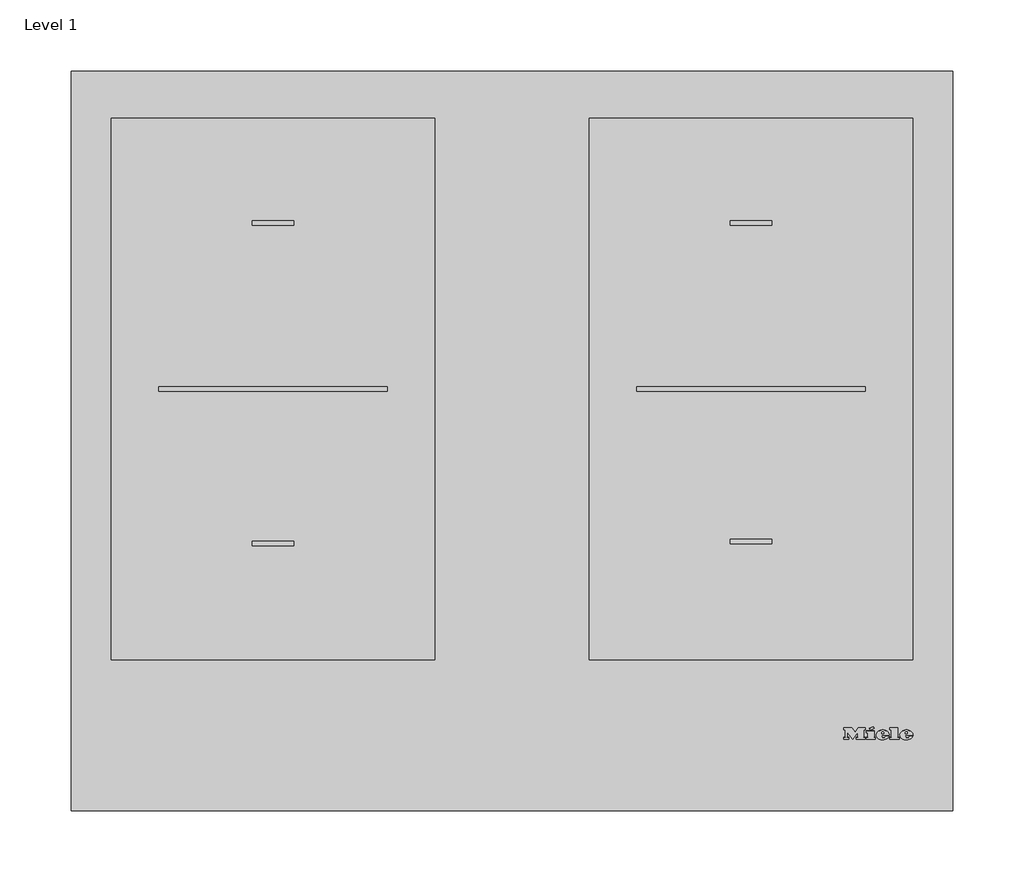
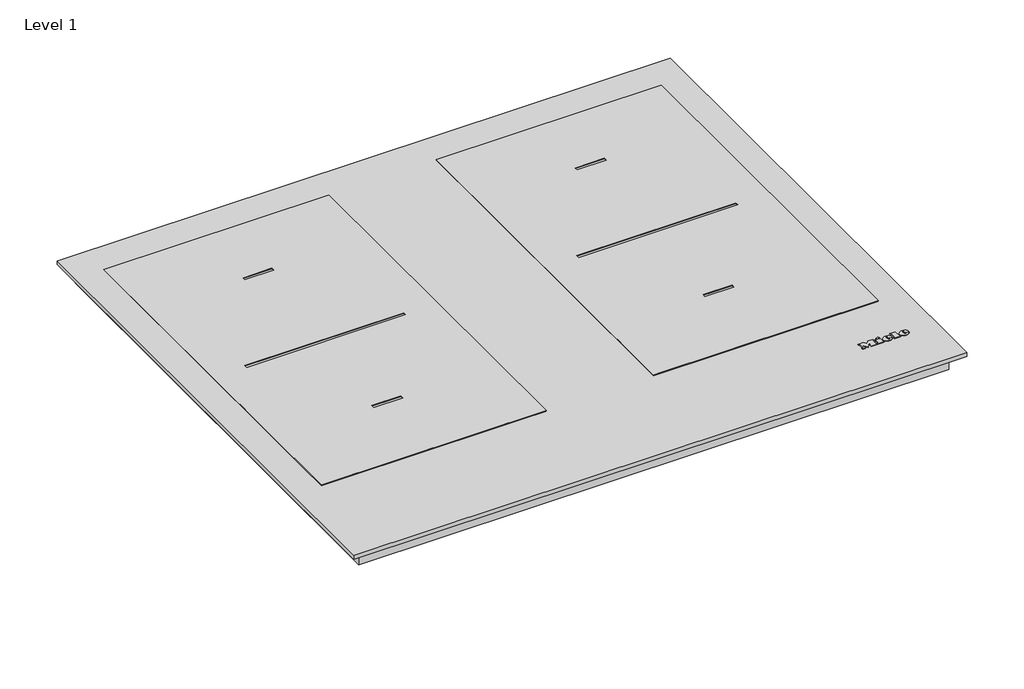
# One storey: 1 proxy.
"""IFC4 building model written with IfcOpenShell, lengths in millimetres."""

import ifcopenshell
import ifcopenshell.guid

model = None  # the IFC model being written
_history = None  # IfcOwnerHistory: only IFC2X3 demands one
_inside = {}  # id of a spatial element -> (the spatial element, [elements in it])
_under = {}  # id of a project, library or spatial element -> (it, [spatial elements below it])
_declared = {}  # id of a project -> (the project, [libraries it declares])
_typed = {}  # id of a type object -> (the type object, [elements of that type])
_made_of = {}  # id of a material, layer set ... -> (it, [elements and type objects made of it])


def new_model(schema):
    """Start an empty IFC model of exactly this schema.

    Asked for "IFC4X3", IfcOpenShell would pick the latest addendum, in which some entities
    have other attributes; the version numbers below select the first issue.
    IFC2X3 requires an IfcOwnerHistory on every rooted entity: one is made here for all.
    """
    global model, _history
    if schema == "IFC4X3":
        model = ifcopenshell.file(schema_version=(4, 3, 0, 0))
    else:
        model = ifcopenshell.file(schema=schema)
    _inside.clear()
    _under.clear()
    _declared.clear()
    _typed.clear()
    _made_of.clear()
    _history = None
    if model.schema == "IFC2X3":
        org = make("IfcOrganization", Name="unknown")
        user = make(
            "IfcPersonAndOrganization",
            ThePerson=make("IfcPerson", FamilyName="unknown"),
            TheOrganization=org,
        )
        app = make(
            "IfcApplication",
            ApplicationDeveloper=org,
            Version="unknown",
            ApplicationFullName="unknown",
            ApplicationIdentifier="unknown",
        )
        _history = make(
            "IfcOwnerHistory",
            OwningUser=user,
            OwningApplication=app,
            ChangeAction="ADDED",
            CreationDate=0,
        )
    return model


def make(cls, **values):
    """One entity of the class cls with the attributes given. An attribute that is None is left unset."""
    return model.create_entity(
        cls, **{name: value for name, value in values.items() if value is not None}
    )


def rooted(cls, **values):
    """An entity with a GlobalId (a new one), such as an element, a storey or a relation."""
    return make(cls, GlobalId=ifcopenshell.guid.new(), OwnerHistory=_history, **values)


def si_unit(unit_type, name, prefix=None):
    """IfcSIUnit, for example si_unit("LENGTHUNIT", "METRE", prefix="MILLI")."""
    return make("IfcSIUnit", UnitType=unit_type, Prefix=prefix, Name=name)


def assignment(units):
    """IfcUnitAssignment: the units of a project."""
    return None if units is None else make("IfcUnitAssignment", Units=units)


def point(xyz):
    """IfcCartesianPoint."""
    return None if xyz is None else make("IfcCartesianPoint", Coordinates=xyz)


def direction(xyz):
    """IfcDirection."""
    return None if xyz is None else make("IfcDirection", DirectionRatios=xyz)


def frame(location, z_axis=None, x_axis=None):
    """IfcAxis2Placement3D, a coordinate frame: its origin and axes. An axis left out is left unset."""
    return make(
        "IfcAxis2Placement3D",
        Location=point(location),
        Axis=direction(z_axis),
        RefDirection=direction(x_axis),
    )


def frame_2d(location, x_axis=None):
    """IfcAxis2Placement2D, a coordinate frame in the plane: its origin and x axis."""
    return make(
        "IfcAxis2Placement2D", Location=point(location), RefDirection=direction(x_axis)
    )


def origin():
    """The frame at (0, 0, 0) with its axes left unset."""
    return frame((0.0, 0.0, 0.0))


def origin_with_axes():
    """The frame at (0, 0, 0) with the z axis (0, 0, 1) and the x axis (1, 0, 0) written out."""
    return frame((0.0, 0.0, 0.0), z_axis=(0.0, 0.0, 1.0), x_axis=(1.0, 0.0, 0.0))


def place(relative_to, where):
    """IfcLocalPlacement: puts the frame where relative to a parent placement (None: the world)."""
    return make(
        "IfcLocalPlacement", PlacementRelTo=relative_to, RelativePlacement=where
    )


def context(
    kind, dimensions, precision=None, world=None, true_north=None, identifier=None
):
    """IfcGeometricRepresentationContext, for example the 3D "Model" context."""
    return make(
        "IfcGeometricRepresentationContext",
        ContextIdentifier=identifier,
        ContextType=kind,
        CoordinateSpaceDimension=dimensions,
        Precision=precision,
        WorldCoordinateSystem=world,
        TrueNorth=true_north,
    )


def project(units=None, contexts=None):
    """IfcProject with its units and contexts."""
    return rooted(
        "IfcProject",
        Name="project",
        RepresentationContexts=contexts,
        UnitsInContext=assignment(units),
    )


def spatial(cls, under=None, at=None, **own):
    """A site, building, storey or space (cls), placed at a placement, below another one or the project."""
    s = rooted(cls, ObjectPlacement=at, **own)
    if under is not None:
        _under.setdefault(under.id(), (under, []))[1].append(s)
    return s


def polyline(points):
    """IfcPolyline through the points."""
    return make("IfcPolyline", Points=[point(p) for p in points])


def circle_curve(where, radius):
    """IfcCircle in the frame where."""
    return make("IfcCircle", Position=where, Radius=radius)


def ellipse_curve(where, semi_axis1, semi_axis2):
    """IfcEllipse in the frame where."""
    return make(
        "IfcEllipse", Position=where, SemiAxis1=semi_axis1, SemiAxis2=semi_axis2
    )


def trimmed(basis, trim1, trim2, sense, master):
    """IfcTrimmedCurve: the piece of a basis curve between two trims."""
    return make(
        "IfcTrimmedCurve",
        BasisCurve=basis,
        Trim1=trim1,
        Trim2=trim2,
        SenseAgreement=sense,
        MasterRepresentation=master,
    )


def segment(curve, same_sense, transition):
    """IfcCompositeCurveSegment."""
    return make(
        "IfcCompositeCurveSegment",
        Transition=transition,
        SameSense=same_sense,
        ParentCurve=curve,
    )


def composite_curve(segments, self_intersect=None):
    """IfcCompositeCurve: segments joined end to end."""
    return make("IfcCompositeCurve", Segments=segments, SelfIntersect=self_intersect)


def outline(outer, holes=None, kind="AREA"):
    """IfcArbitraryClosedProfileDef: a profile drawn as a closed curve; with holes, ...WithVoids."""
    if holes is None:
        return make("IfcArbitraryClosedProfileDef", ProfileType=kind, OuterCurve=outer)
    return make(
        "IfcArbitraryProfileDefWithVoids",
        ProfileType=kind,
        OuterCurve=outer,
        InnerCurves=holes,
    )


def extrude(swept, where, along, depth):
    """IfcExtrudedAreaSolid: the profile swept, set in the frame where, extruded along a direction by depth."""
    return make(
        "IfcExtrudedAreaSolid",
        SweptArea=swept,
        Position=where,
        ExtrudedDirection=direction(along),
        Depth=depth,
    )


def shape(context_of_items, identifier, shape_type, items):
    """IfcShapeRepresentation: the items that make up one representation, for example the "Body"."""
    return make(
        "IfcShapeRepresentation",
        ContextOfItems=context_of_items,
        RepresentationIdentifier=identifier,
        RepresentationType=shape_type,
        Items=items,
    )


def source(mapping_origin, context_of_items, identifier, shape_type, items):
    """IfcRepresentationMap: a shape defined once, which mapped items show again and again."""
    return make(
        "IfcRepresentationMap",
        MappingOrigin=mapping_origin,
        MappedRepresentation=shape(context_of_items, identifier, shape_type, items),
    )


def transform(
    local_origin,
    x_axis=None,
    y_axis=None,
    z_axis=None,
    scale=None,
    scale2=None,
    scale3=None,
    uniform=True,
):
    """IfcCartesianTransformationOperator3D, or its non-uniform kind. x_axis, y_axis, z_axis: its Axis1, 2, 3."""
    if uniform:
        return make(
            "IfcCartesianTransformationOperator3D",
            Axis1=direction(x_axis),
            Axis2=direction(y_axis),
            LocalOrigin=point(local_origin),
            Scale=scale,
            Axis3=direction(z_axis),
        )
    return make(
        "IfcCartesianTransformationOperator3DnonUniform",
        Axis1=direction(x_axis),
        Axis2=direction(y_axis),
        LocalOrigin=point(local_origin),
        Scale=scale,
        Axis3=direction(z_axis),
        Scale2=scale2,
        Scale3=scale3,
    )


def mapped(mapping_source, mapping_target):
    """IfcMappedItem: shows the shape of a source again, moved by a transform."""
    return make(
        "IfcMappedItem", MappingSource=mapping_source, MappingTarget=mapping_target
    )


def made_of(thing, what):
    """Note that an element or type object is made of a material, layer set ...; save() writes the relation."""
    if what is not None:
        _made_of.setdefault(what.id(), (what, []))[1].append(thing)
    return thing


def element(
    cls,
    number,
    at=None,
    inside=None,
    cuts=None,
    type_object=None,
    material=None,
    context=None,
    identifier="Body",
    shape_type=None,
    held_by="IfcProductDefinitionShape",
    body=None,
    shapes=None,
    **own,
):
    """One element of the class cls, such as IfcWall. Its Tag is "e" and its number.

    at: its placement. inside: the storey or other place that contains it. cuts: it is an
    opening in that element (IfcRelVoidsElement). A single representation is given by context,
    identifier, shape_type and body (its items); several are given by shapes. held_by: the class
    of the entity that holds the representations. save() writes the other relations.
    """
    e = rooted(cls, Tag="e%d" % number, ObjectPlacement=at, **own)
    if body is not None:
        shapes = [shape(context, identifier, shape_type, body)]
    if shapes is not None:
        e.Representation = make(held_by, Representations=shapes)
    if inside is not None:
        _inside.setdefault(inside.id(), (inside, []))[1].append(e)
    if cuts is not None:
        rooted(
            "IfcRelVoidsElement", RelatingBuildingElement=cuts, RelatedOpeningElement=e
        )
    if type_object is not None:
        _typed.setdefault(type_object.id(), (type_object, []))[1].append(e)
    return made_of(e, material)


def aggregate(whole, parts):
    """IfcRelAggregates: a whole, such as a stair, and the parts it consists of."""
    return rooted("IfcRelAggregates", RelatingObject=whole, RelatedObjects=parts)


def save(model, path):
    """Write the relations noted so far, then the file.

    IfcRelAggregates (storeys below a building ...), IfcRelContainedInSpatialStructure (elements
    in a storey), IfcRelDefinesByType, IfcRelAssociatesMaterial and IfcRelDeclares: one each for
    every whole, place, type object, material and project.
    """
    for whole, parts in _under.values():
        aggregate(whole, parts)
    for where, things in _inside.values():
        rooted(
            "IfcRelContainedInSpatialStructure",
            RelatedElements=things,
            RelatingStructure=where,
        )
    for kind, things in _typed.values():
        rooted("IfcRelDefinesByType", RelatedObjects=things, RelatingType=kind)
    for what, things in _made_of.values():
        rooted("IfcRelAssociatesMaterial", RelatedObjects=things, RelatingMaterial=what)
    for by, libraries in _declared.values():
        rooted("IfcRelDeclares", RelatingContext=by, RelatedDefinitions=libraries)
    model.write(path)


def plane_surface(at):
    """IfcPlane: the flat surface through the origin of the frame at, square to its z axis."""
    return make("IfcPlane", Position=at)


def cylinder_surface(at, radius):
    """IfcCylindricalSurface: all points at the distance radius from the z axis of the frame at."""
    return make("IfcCylindricalSurface", Position=at, Radius=radius)


def revolved_surface(curve, axis_point, axis_direction):
    """IfcSurfaceOfRevolution: the curve turned about the line through axis_point along axis_direction."""
    return make(
        "IfcSurfaceOfRevolution",
        SweptCurve=make("IfcArbitraryOpenProfileDef", ProfileType="CURVE", Curve=curve),
        AxisPosition=make("IfcAxis1Placement", Location=point(axis_point), Axis=direction(axis_direction)),
    )


def extruded_surface(curve, direction_of_extrusion, depth):
    """IfcSurfaceOfLinearExtrusion: the curve pushed along a direction by depth."""
    return make(
        "IfcSurfaceOfLinearExtrusion",
        SweptCurve=make("IfcArbitraryOpenProfileDef", ProfileType="CURVE", Curve=curve),
        ExtrudedDirection=direction(direction_of_extrusion),
        Depth=depth,
    )


def advanced_brep(points, edges, surfaces, faces):
    """IfcAdvancedBrep: a solid bounded by faces that lie on surfaces and meet in shared edges.

    An edge is (start, end): straight between two places in points (the first is 0);
    or (start, end, curve); or (start, end, curve, False) where it runs against its curve.
    A face is (place in surfaces, loops), or (place, loops, False) where it looks against
    its surface's normal. A loop lists edges by number (the first is 1), with a minus sign
    where the edge is run from its end to its start. The first loop is the outer one.
    """
    corners = [point(p) for p in points]
    vertices = [make("IfcVertexPoint", VertexGeometry=c) for c in corners]
    made = []
    for start, end, *more in edges:
        made.append(
            make(
                "IfcEdgeCurve",
                EdgeStart=vertices[start],
                EdgeEnd=vertices[end],
                EdgeGeometry=more[0] if more else make("IfcPolyline", Points=[corners[start], corners[end]]),
                SameSense=more[1] if len(more) > 1 else True,
            )
        )
    hull = []
    for where, loops, *sense in faces:
        bounds = []
        for j, loop in enumerate(loops):
            ring = [make("IfcOrientedEdge", EdgeElement=made[abs(k) - 1], Orientation=k > 0) for k in loop]
            bounds.append(
                make(
                    "IfcFaceOuterBound" if j == 0 else "IfcFaceBound",
                    Bound=make("IfcEdgeLoop", EdgeList=ring),
                    Orientation=True,
                )
            )
        hull.append(make("IfcAdvancedFace", Bounds=bounds, FaceSurface=surfaces[where], SameSense=sense[0] if sense else True))
    return make("IfcAdvancedBrep", Outer=make("IfcClosedShell", CfsFaces=hull))


def specialty_equipment_fb43af33(model_context):
    return source(origin(), model_context, "Body", "SolidModel", [
        advanced_brep(
        [(276.66, 52.1948833, 4.4802537), (276.66, 53.0028828, 4.4811551), (282.012, 53.0028828, 4.4811551), (272.7, 53.0028828, 4.4811551), (274.9, 50.2988845, 4.4781386), (281.876, 52.1948833, 4.4802537), (279.46, 52.1948833, 4.4802537), (277.556, 51.2988838, 4.4792542), (276.66, 54.0268821, 4.4822974), (276.66, 54.8988816, 4.4832701), (278.028, 54.8988816, 4.4832701), (278.028, 54.0268821, 4.4822974), (276.66, 52.1959988, 3.4802543), (277.556, 51.2999994, 3.4792548), (279.46, 52.1959988, 3.4802543), (281.876, 52.1959988, 3.4802543), (274.9, 50.3, 3.4781393), (272.7, 53.0039983, 3.4811557), (282.012, 53.0039983, 3.4811557), (276.66, 53.0039983, 3.4811557), (276.66, 54.0279977, 3.482298), (278.028, 54.0279977, 3.482298), (278.028, 54.8999971, 3.4832707), (276.66, 54.8999971, 3.4832707)],
        [
            (0, 1),
            (1, 2),
            (2, 3, ellipse_curve(frame((277.356, 53.0028828, 4.4811551), z_axis=(0.0, -0.0011155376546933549, 0.9999993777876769), x_axis=(-1.0, 0.0, 0.0)), 4.656, 3.848)),
            (3, 4, circle_curve(frame((275.7960436, 53.2748826, 4.4814585), z_axis=(0.0, -0.0011155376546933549, 0.9999993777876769), x_axis=(0.0, -0.9999993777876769, -0.0011155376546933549)), 3.1079688)),
            (4, 5, circle_curve(frame((277.2627936, 55.3868813, 4.4838145), z_axis=(0.0, -0.0011155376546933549, 0.9999993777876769), x_axis=(0.0, -0.9999993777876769, -0.0011155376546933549)), 5.6098607)),
            (5, 6),
            (6, 7, circle_curve(frame((277.9470588, 52.9388828, 4.4810837), z_axis=(0.0, 0.0011155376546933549, -0.9999993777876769), x_axis=(0.0, -0.9999993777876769, -0.0011155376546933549)), 1.6859795)),
            (7, 0, circle_curve(frame((277.556, 52.1948833, 4.4802537), z_axis=(0.0, 0.0011155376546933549, -0.9999993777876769), x_axis=(0.0, -0.9999993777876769, -0.0011155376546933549)), 0.896)),
            (8, 9),
            (9, 10, circle_curve(frame((277.344, 54.8988816, 4.4832701), z_axis=(0.0, 0.0011155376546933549, -0.9999993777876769), x_axis=(0.0, -0.9999993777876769, -0.0011155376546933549)), 0.684)),
            (10, 11),
            (11, 8),
            (12, 13, circle_curve(frame((277.556, 52.1959988, 3.4802543), z_axis=(0.0, -0.0011155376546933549, 0.9999993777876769), x_axis=(0.0, -0.9999993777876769, -0.0011155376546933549)), 0.896)),
            (13, 14, circle_curve(frame((277.9470588, 52.9399984, 3.4810843), z_axis=(0.0, -0.0011155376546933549, 0.9999993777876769), x_axis=(0.0, -0.9999993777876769, -0.0011155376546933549)), 1.6859795)),
            (14, 15),
            (15, 16, circle_curve(frame((277.2627936, 55.3879968, 3.4838151), z_axis=(0.0, 0.0011155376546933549, -0.9999993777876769), x_axis=(0.0, -0.9999993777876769, -0.0011155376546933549)), 5.6098607)),
            (16, 17, circle_curve(frame((275.7960436, 53.2759981, 3.4814591), z_axis=(0.0, 0.0011155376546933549, -0.9999993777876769), x_axis=(0.0, -0.9999993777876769, -0.0011155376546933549)), 3.1079688)),
            (17, 18, ellipse_curve(frame((277.356, 53.0039983, 3.4811557), z_axis=(0.0, 0.0011155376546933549, -0.9999993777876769), x_axis=(-1.0, 0.0, 0.0)), 4.656, 3.848)),
            (18, 19),
            (19, 12),
            (20, 21),
            (21, 22),
            (22, 23, circle_curve(frame((277.344, 54.8999971, 3.4832707), z_axis=(0.0, -0.0011155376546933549, 0.9999993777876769), x_axis=(0.0, -0.9999993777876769, -0.0011155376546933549)), 0.684)),
            (23, 20),
            (0, 12),
            (19, 1),
            (18, 2),
            (5, 15),
            (14, 6),
            (17, 3),
            (13, 7),
            (16, 4),
            (8, 20),
            (23, 9),
            (22, 10),
            (21, 11),
        ],
        [
            plane_surface(frame((276.66, 53.0028828, 4.4811551), z_axis=(0.0, -0.0011155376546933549, 0.9999993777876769), x_axis=(0.0, 0.9999993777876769, 0.0011155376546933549))),
            plane_surface(frame((276.66, 53.0039983, 3.4811557), z_axis=(0.0, 0.0011155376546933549, -0.9999993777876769), x_axis=(0.0, -0.9999993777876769, -0.0011155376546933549))),
            plane_surface(frame((276.66, 52.1948833, 4.4802537), z_axis=(1.0000000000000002, 0.0, 0.0), x_axis=(0.0, 0.001115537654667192, -0.999999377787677))),
            plane_surface(frame((276.66, 53.0028828, 4.4811551), z_axis=(0.0, -0.999999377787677, -0.001115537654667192), x_axis=(0.0, 0.001115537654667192, -0.999999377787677))),
            plane_surface(frame((281.876, 52.1948833, 4.4802537), z_axis=(0.0, 0.999999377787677, 0.001115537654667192), x_axis=(0.0, 0.001115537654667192, -0.999999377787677))),
            extruded_surface(trimmed(ellipse_curve(frame((277.356, 53.0051139, 2.4811563), z_axis=(0.0, -0.0011155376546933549, 0.9999993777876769), x_axis=(-1.0, 0.0, 0.0)), 4.656, 3.848), [point((282.012, 53.0051139, 2.4811563))], [point((272.7, 53.0051139, 2.4811563))], True, "CARTESIAN"), (0.0, -0.001115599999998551, 0.9999994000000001), 1.00000002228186),
            revolved_surface(polyline([(277.9470588, 51.25401994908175, 3.479203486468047), (277.9470588, 51.25290441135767, 4.4792029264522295)]), (277.9470588, 52.9399984, 3.4810843), (0.0, 0.0011155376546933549, -0.9999993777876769)),
            revolved_surface(polyline([(277.556, 51.29999935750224, 3.4792547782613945), (277.556, 51.29888381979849, 4.479254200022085)]), (277.556, 52.1959988, 3.4802543), (0.0, 0.0011155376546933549, -0.9999993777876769)),
            cylinder_surface(frame((275.7960436, 53.2759981, 3.4814591), z_axis=(0.0, -0.0011155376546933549, 0.9999993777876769), x_axis=(0.0, -0.9999993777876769, -0.0011155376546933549)), 3.1079688),
            cylinder_surface(frame((277.2627936, 55.3879968, 3.4838151), z_axis=(0.0, -0.0011155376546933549, 0.9999993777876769), x_axis=(0.0, -0.9999993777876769, -0.0011155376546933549)), 5.6098607),
            plane_surface(frame((276.66, 54.0268821, 4.4822974), z_axis=(1.0000000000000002, 0.0, 0.0), x_axis=(0.0, 0.001115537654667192, -0.999999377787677))),
            revolved_surface(polyline([(277.344, 54.21599752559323, 3.4825076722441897), (277.344, 54.214881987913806, 4.482507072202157)]), (277.344, 54.8999971, 3.4832707), (0.0, 0.0011155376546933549, -0.9999993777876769)),
            plane_surface(frame((278.028, 54.8988816, 4.4832701), z_axis=(-1.0000000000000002, 0.0, 0.0), x_axis=(0.0, 0.001115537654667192, -0.999999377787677))),
            plane_surface(frame((278.028, 54.0268821, 4.4822974), z_axis=(0.0, 0.999999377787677, 0.001115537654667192), x_axis=(0.0, 0.001115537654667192, -0.999999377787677))),
        ],
        [
            (0, [[1, 2, 3, 4, 5, 6, 7, 8], [9, 10, 11, 12]]),
            (1, [[13, 14, 15, 16, 17, 18, 19, 20], [21, 22, 23, 24]]),
            (2, [[-1, 25, -20, 26]]),
            (3, [[-2, -26, -19, 27]]),
            (4, [[-6, 28, -15, 29]]),
            (5, [[-3, -27, -18, 30]]),
            (6, [[-7, -29, -14, 31]]),
            (7, [[-8, -31, -13, -25]]),
            (8, [[-4, -30, -17, 32]]),
            (9, [[-5, -32, -16, -28]]),
            (10, [[-9, 33, -24, 34]]),
            (11, [[-10, -34, -23, 35]]),
            (12, [[-11, -35, -22, 36]]),
            (13, [[-12, -36, -21, -33]]),
        ],
    ),
        advanced_brep(
        [(259.964, 52.1948833, 4.4802537), (259.964, 53.0028828, 4.4811551), (265.316, 53.0028828, 4.4811551), (256.004, 53.0028828, 4.4811551), (258.204, 50.2988845, 4.4781386), (265.18, 52.1948833, 4.4802537), (262.764, 52.1948833, 4.4802537), (260.86, 51.2988838, 4.4792542), (259.964, 54.0268821, 4.4822974), (259.964, 54.8988816, 4.4832701), (261.332, 54.8988816, 4.4832701), (261.332, 54.0268821, 4.4822974), (259.964, 52.1959988, 3.4802543), (260.86, 51.2999994, 3.4792548), (262.764, 52.1959988, 3.4802543), (265.18, 52.1959988, 3.4802543), (258.204, 50.3, 3.4781393), (256.004, 53.0039983, 3.4811557), (265.316, 53.0039983, 3.4811557), (259.964, 53.0039983, 3.4811557), (259.964, 54.0279977, 3.482298), (261.332, 54.0279977, 3.482298), (261.332, 54.8999971, 3.4832707), (259.964, 54.8999971, 3.4832707)],
        [
            (0, 1),
            (1, 2),
            (2, 3, ellipse_curve(frame((260.66, 53.0028828, 4.4811551), z_axis=(0.0, -0.0011155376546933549, 0.9999993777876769), x_axis=(-1.0, 0.0, 0.0)), 4.656, 3.848)),
            (3, 4, circle_curve(frame((259.1000436, 53.2748826, 4.4814585), z_axis=(0.0, -0.0011155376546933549, 0.9999993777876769), x_axis=(0.0, -0.9999993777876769, -0.0011155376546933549)), 3.1079688)),
            (4, 5, circle_curve(frame((260.5667936, 55.3868813, 4.4838145), z_axis=(0.0, -0.0011155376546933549, 0.9999993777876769), x_axis=(0.0, -0.9999993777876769, -0.0011155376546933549)), 5.6098607)),
            (5, 6),
            (6, 7, circle_curve(frame((261.2510588, 52.9388828, 4.4810837), z_axis=(0.0, 0.0011155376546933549, -0.9999993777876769), x_axis=(0.0, -0.9999993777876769, -0.0011155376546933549)), 1.6859795)),
            (7, 0, circle_curve(frame((260.86, 52.1948833, 4.4802537), z_axis=(0.0, 0.0011155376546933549, -0.9999993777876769), x_axis=(0.0, -0.9999993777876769, -0.0011155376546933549)), 0.896)),
            (8, 9),
            (9, 10, circle_curve(frame((260.648, 54.8988816, 4.4832701), z_axis=(0.0, 0.0011155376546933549, -0.9999993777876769), x_axis=(0.0, -0.9999993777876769, -0.0011155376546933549)), 0.684)),
            (10, 11),
            (11, 8),
            (12, 13, circle_curve(frame((260.86, 52.1959988, 3.4802543), z_axis=(0.0, -0.0011155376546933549, 0.9999993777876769), x_axis=(0.0, -0.9999993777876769, -0.0011155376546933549)), 0.896)),
            (13, 14, circle_curve(frame((261.2510588, 52.9399984, 3.4810843), z_axis=(0.0, -0.0011155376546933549, 0.9999993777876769), x_axis=(0.0, -0.9999993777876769, -0.0011155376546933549)), 1.6859795)),
            (14, 15),
            (15, 16, circle_curve(frame((260.5667936, 55.3879968, 3.4838151), z_axis=(0.0, 0.0011155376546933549, -0.9999993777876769), x_axis=(0.0, -0.9999993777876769, -0.0011155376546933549)), 5.6098607)),
            (16, 17, circle_curve(frame((259.1000436, 53.2759981, 3.4814591), z_axis=(0.0, 0.0011155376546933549, -0.9999993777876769), x_axis=(0.0, -0.9999993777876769, -0.0011155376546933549)), 3.1079688)),
            (17, 18, ellipse_curve(frame((260.66, 53.0039983, 3.4811557), z_axis=(0.0, 0.0011155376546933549, -0.9999993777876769), x_axis=(-1.0, 0.0, 0.0)), 4.656, 3.848)),
            (18, 19),
            (19, 12),
            (20, 21),
            (21, 22),
            (22, 23, circle_curve(frame((260.648, 54.8999971, 3.4832707), z_axis=(0.0, -0.0011155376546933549, 0.9999993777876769), x_axis=(0.0, -0.9999993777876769, -0.0011155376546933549)), 0.684)),
            (23, 20),
            (0, 12),
            (19, 1),
            (18, 2),
            (5, 15),
            (14, 6),
            (17, 3),
            (13, 7),
            (16, 4),
            (8, 20),
            (23, 9),
            (22, 10),
            (21, 11),
        ],
        [
            plane_surface(frame((259.964, 53.0028828, 4.4811551), z_axis=(0.0, -0.0011155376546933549, 0.9999993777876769), x_axis=(0.0, 0.9999993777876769, 0.0011155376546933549))),
            plane_surface(frame((259.964, 53.0039983, 3.4811557), z_axis=(0.0, 0.0011155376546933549, -0.9999993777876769), x_axis=(0.0, -0.9999993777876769, -0.0011155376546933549))),
            plane_surface(frame((259.964, 52.1948833, 4.4802537), z_axis=(1.0000000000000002, 0.0, 0.0), x_axis=(0.0, 0.001115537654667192, -0.999999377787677))),
            plane_surface(frame((259.964, 53.0028828, 4.4811551), z_axis=(0.0, -0.999999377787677, -0.001115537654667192), x_axis=(0.0, 0.001115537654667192, -0.999999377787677))),
            plane_surface(frame((265.18, 52.1948833, 4.4802537), z_axis=(0.0, 0.999999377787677, 0.001115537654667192), x_axis=(0.0, 0.001115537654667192, -0.999999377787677))),
            extruded_surface(trimmed(ellipse_curve(frame((260.66, 53.0051139, 2.4811563), z_axis=(0.0, -0.0011155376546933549, 0.9999993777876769), x_axis=(-1.0, 0.0, 0.0)), 4.656, 3.848), [point((265.316, 53.0051139, 2.4811563))], [point((256.004, 53.0051139, 2.4811563))], True, "CARTESIAN"), (0.0, -0.001115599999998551, 0.9999994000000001), 1.00000002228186),
            revolved_surface(polyline([(261.2510588, 51.25401994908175, 3.479203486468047), (261.2510588, 51.25290441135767, 4.4792029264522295)]), (261.2510588, 52.9399984, 3.4810843), (0.0, 0.0011155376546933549, -0.9999993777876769)),
            revolved_surface(polyline([(260.86, 51.29999935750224, 3.4792547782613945), (260.86, 51.29888381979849, 4.479254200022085)]), (260.86, 52.1959988, 3.4802543), (0.0, 0.0011155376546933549, -0.9999993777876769)),
            cylinder_surface(frame((259.1000436, 53.2759981, 3.4814591), z_axis=(0.0, -0.0011155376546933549, 0.9999993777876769), x_axis=(0.0, -0.9999993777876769, -0.0011155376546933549)), 3.1079688),
            cylinder_surface(frame((260.5667936, 55.3879968, 3.4838151), z_axis=(0.0, -0.0011155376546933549, 0.9999993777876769), x_axis=(0.0, -0.9999993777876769, -0.0011155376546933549)), 5.6098607),
            plane_surface(frame((259.964, 54.0268821, 4.4822974), z_axis=(1.0000000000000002, 0.0, 0.0), x_axis=(0.0, 0.001115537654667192, -0.999999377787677))),
            revolved_surface(polyline([(260.648, 54.21599752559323, 3.4825076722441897), (260.648, 54.214881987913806, 4.482507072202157)]), (260.648, 54.8999971, 3.4832707), (0.0, 0.0011155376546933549, -0.9999993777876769)),
            plane_surface(frame((261.332, 54.8988816, 4.4832701), z_axis=(-1.0000000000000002, 0.0, 0.0), x_axis=(0.0, 0.001115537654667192, -0.999999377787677))),
            plane_surface(frame((261.332, 54.0268821, 4.4822974), z_axis=(0.0, 0.999999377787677, 0.001115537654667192), x_axis=(0.0, 0.001115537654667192, -0.999999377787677))),
        ],
        [
            (0, [[1, 2, 3, 4, 5, 6, 7, 8], [9, 10, 11, 12]]),
            (1, [[13, 14, 15, 16, 17, 18, 19, 20], [21, 22, 23, 24]]),
            (2, [[-1, 25, -20, 26]]),
            (3, [[-2, -26, -19, 27]]),
            (4, [[-6, 28, -15, 29]]),
            (5, [[-3, -27, -18, 30]]),
            (6, [[-7, -29, -14, 31]]),
            (7, [[-8, -31, -13, -25]]),
            (8, [[-4, -30, -17, 32]]),
            (9, [[-5, -32, -16, -28]]),
            (10, [[-9, 33, -24, 34]]),
            (11, [[-10, -34, -23, 35]]),
            (12, [[-11, -35, -22, 36]]),
            (13, [[-12, -36, -21, -33]]),
        ],
    ),
        extrude(outline(polyline([(0.0, 0.0), (-0.0109086, -2.9993294), (-1.4390415, -2.9920868), (-1.4315307, 0.0), (0.0, 0.0)])), frame((251.22, 57.8279953, 3.486537), z_axis=(0.0, -0.001115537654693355, 0.9999993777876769), x_axis=(-0.4247202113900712, 0.9053240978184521, 0.0010099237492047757)), (0.0, 0.0, 1.0), 1.0),
        extrude(outline(polyline([(-0.4933908, 2.4141097), (-2.7800844, -2.4601583), (-7.0459741, -0.4588767), (-7.4401145, -1.299018), (-8.6568709, -0.728194), (-5.9760369, 4.9862153), (-4.7592805, 4.4153913), (-5.1636142, 3.5535222), (-2.1941493, 2.1604399), (-1.7898157, 3.022309), (-0.4933908, 2.4141097)])), frame((251.22, 57.8279953, 3.486537), z_axis=(0.0, -0.001115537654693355, 0.9999993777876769), x_axis=(-0.4247202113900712, 0.9053240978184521, 0.0010099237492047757)), (0.0, 0.0, 1.0), 1.0),
        extrude(outline(polyline([(0.0, 0.0), (0.0, -1.304), (-5.504, -1.304), (-5.504, 5.3519999), (-6.488, 5.3519999), (-6.488, 6.696), (0.0, 6.696), (0.0, 5.3519999), (-0.96, 5.3519999), (-0.96, 0.0), (0.0, 0.0)])), frame((265.764, 56.9959958, 3.4856089), z_axis=(0.0, -0.0011155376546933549, 0.9999993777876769), x_axis=(-1.0, 0.0, 0.0)), (0.0, 0.0, 1.0), 1.0),
        extrude(outline(polyline([(0.0, 0.0), (0.0, -1.304), (-5.576, -1.304), (-7.92, 1.696), (-10.256, -1.304), (-15.128, -1.304), (-15.128, 0.0), (-14.112, 0.0), (-14.112, 5.3519999), (-15.128, 5.3519999), (-15.128, 6.696), (-8.744, 6.696), (-8.744, 5.3519999), (-9.728, 5.3519999), (-9.728, 1.8807777), (-6.136, 6.696), (-2.56, 1.9488752), (-2.56, 5.3519999), (-3.52, 5.3519999), (-3.52, 6.696), (0.0, 6.696), (0.0, 5.3519999), (-0.968, 5.3519999), (-0.968, 0.0), (0.0, 0.0)])), frame((233.3, 56.9959958, 3.4856089), z_axis=(0.0, -0.0011155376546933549, 0.9999993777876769), x_axis=(-1.0, 0.0, 0.0)), (0.0, 0.0, 1.0), 1.0),
        extrude(outline(polyline([(310.0, 520.0), (310.0, 0.0), (-310.0, 0.0), (-310.0, 520.0), (310.0, 520.0)])), origin_with_axes(), (0.0, 0.0, 1.0), 4.0),
        extrude(outline(polyline([(298.5, 508.5), (298.5, 11.5), (-298.5, 11.5), (-298.5, 508.5), (298.5, 508.5)])), frame((0.0, 0.0, -16.8), z_axis=(0.0, 0.0, 1.0), x_axis=(1.0, 0.0, 0.0)), (0.0, 0.0, 1.0), 16.8),
        extrude(outline(polyline([(-202.8, 318.7), (-224.2, 318.7), (-224.2, 402.1), (-202.8, 402.1), (-202.8, 452.3), (203.2, 452.3), (203.2, 81.3), (-202.8, 81.3), (-202.8, 318.7)])), frame((0.0, 0.0, -46.5), z_axis=(0.0, 0.0, 1.0), x_axis=(1.0, 0.0, 0.0)), (0.0, 0.0, 1.0), 29.7),
        extrude(outline(polyline([(141.2772603, 415.5), (133.9, 415.5), (133.9, 416.7557039), (140.0215564, 416.7557039), (140.0215564, 420.0519266), (134.370889, 420.0519266), (134.370889, 421.3076304), (140.0215564, 421.3076304), (140.0215564, 424.2899271), (134.056963, 424.2899271), (134.056963, 425.545631), (141.2772603, 425.545631), (141.2772603, 415.5)])), frame((0.0, 0.0, -77.5), z_axis=(0.0, 0.0, 1.0), x_axis=(1.0, 0.0, 0.0)), (0.0, 0.0, 1.0), 1.0),
        extrude(outline(polyline([(132.0164442, 415.5), (125.7379248, 415.5), (125.7379248, 416.7557039), (130.7607403, 416.7557039), (130.7607403, 425.545631), (132.0164442, 425.545631), (132.0164442, 415.5)])), frame((0.0, 0.0, -77.5), z_axis=(0.0, 0.0, 1.0), x_axis=(1.0, 0.0, 0.0)), (0.0, 0.0, 1.0), 1.0),
        extrude(outline(composite_curve([segment(trimmed(circle_curve(frame_2d((133.9, 420.5)), 7.5), [point((133.9, 428.0))], [point((133.9, 413.0))], False, "CARTESIAN"), True, "CONTINUOUS"), segment(trimmed(circle_curve(frame_2d((133.9, 420.5)), 7.5), [point((133.9, 413.0))], [point((133.9, 428.0))], False, "CARTESIAN"), True, "CONTINUOUS")], self_intersect=False)), frame((0.0, 0.0, -76.5), z_axis=(0.0, 0.0, 1.0), x_axis=(1.0, 0.0, 0.0)), (0.0, 0.0, 1.0), 30.0),
        extrude(outline(polyline([(281.75, 486.75), (281.75, 106.25), (54.25, 106.25), (54.25, 486.75), (281.75, 486.75)]), holes=[polyline([(87.7, 298.1), (87.7, 294.9), (248.3, 294.9), (248.3, 298.1), (87.7, 298.1)]), polyline([(182.65, 414.85), (153.35, 414.85), (153.35, 411.65), (182.65, 411.65), (182.65, 414.85)]), polyline([(182.65, 190.95), (153.35, 190.95), (153.35, 187.75), (182.65, 187.75), (182.65, 190.95)])]), frame((0.0, 0.0, 4.0), z_axis=(0.0, 0.0, 1.0), x_axis=(1.0, 0.0, 0.0)), (0.0, 0.0, 1.0), 1.0),
        extrude(outline(polyline([(-54.25, 486.75), (-54.25, 106.25), (-281.75, 106.25), (-281.75, 486.75), (-54.25, 486.75)]), holes=[polyline([(-87.7, 298.1), (-248.3, 298.1), (-248.3, 294.9), (-87.7, 294.9), (-87.7, 298.1)]), polyline([(-153.35, 414.85), (-182.65, 414.85), (-182.65, 411.65), (-153.35, 411.65), (-153.35, 414.85)]), polyline([(-153.35, 189.35), (-182.65, 189.35), (-182.65, 186.15), (-153.35, 186.15), (-153.35, 189.35)])]), frame((0.0, 0.0, 4.0), z_axis=(0.0, 0.0, 1.0), x_axis=(1.0, 0.0, 0.0)), (0.0, 0.0, 1.0), 1.0),
        extrude(outline(composite_curve([segment(trimmed(circle_curve(frame_2d((-291.0, 80.0)), 3.0), [point((-291.0, 83.0))], [point((-291.0, 77.0))], False, "CARTESIAN"), True, "CONTINUOUS"), segment(trimmed(circle_curve(frame_2d((-291.0, 80.0)), 3.0), [point((-291.0, 77.0))], [point((-291.0, 83.0))], False, "CARTESIAN"), True, "CONTINUOUS")], self_intersect=False)), frame((0.0, 0.0, -22.0), z_axis=(0.0, 0.0, 1.0), x_axis=(1.0, 0.0, 0.0)), (0.0, 0.0, 1.0), 5.2),
        extrude(outline(composite_curve([segment(trimmed(circle_curve(frame_2d((291.0, 440.0)), 3.0), [point((291.0, 443.0))], [point((291.0, 437.0))], False, "CARTESIAN"), True, "CONTINUOUS"), segment(trimmed(circle_curve(frame_2d((291.0, 440.0)), 3.0), [point((291.0, 437.0))], [point((291.0, 443.0))], False, "CARTESIAN"), True, "CONTINUOUS")], self_intersect=False)), frame((0.0, 0.0, -22.0), z_axis=(0.0, 0.0, 1.0), x_axis=(1.0, 0.0, 0.0)), (0.0, 0.0, 1.0), 5.2),
    ])


model = new_model("IFC4")

# Units and contexts
model_context = context("Model", 3, world=origin())
ifc_project = project(units=[si_unit("LENGTHUNIT", "METRE", prefix="MILLI")], contexts=[model_context])

# Site, building, storey
site = spatial("IfcSite", under=ifc_project)
building = spatial("IfcBuilding", under=site)
storey = spatial("IfcBuildingStorey", under=building, Name="Level 1", Elevation=0.0)

# Proxy
placement = place(None, origin())
specialty_equipment_shape = specialty_equipment_fb43af33(model_context)
element("IfcBuildingElementProxy", 1, Name="11916370_ROK_KM7465FL : 26746570_ROK_11916370_KM7465FL", ObjectType="11916370_ROK_KM7465FL : 26746570_ROK_11916370_KM7465FL", at=placement, inside=storey, context=model_context, shape_type="MappedRepresentation", body=[
    mapped(specialty_equipment_shape, transform((0.0, 0.0, 0.0), x_axis=(1.0, 0.0, 0.0), y_axis=(0.0, 1.0, 0.0), z_axis=(0.0, 0.0, 1.0))),
])

save(model, "model.ifc")
